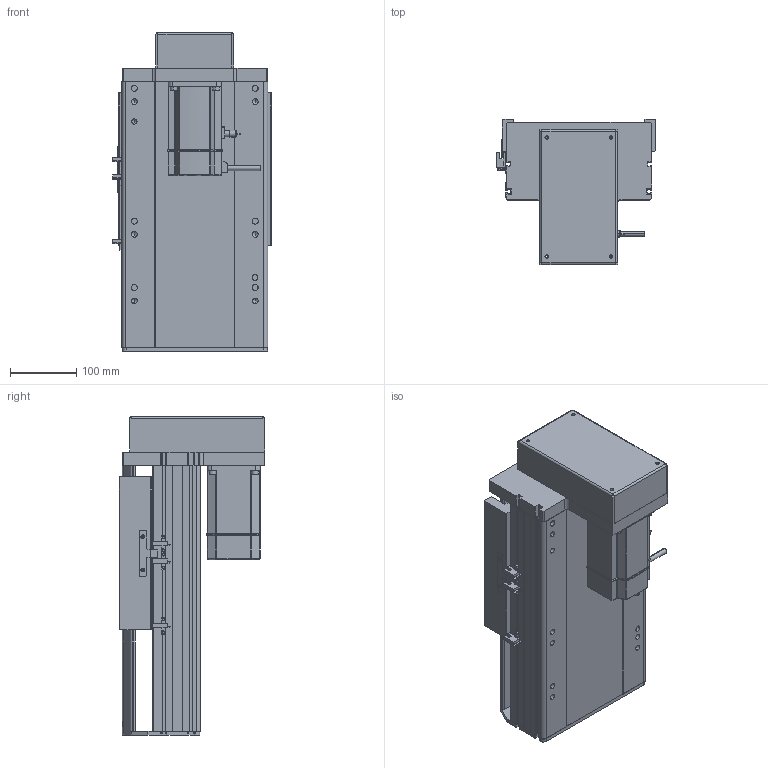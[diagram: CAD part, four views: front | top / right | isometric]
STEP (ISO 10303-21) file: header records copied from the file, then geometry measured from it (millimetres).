
FILE_DESCRIPTION (( 'STEP AP214' ), '1' );
FILE_NAME ('RTH22-XX-100-M-M75-C4.STEP', '2025-10-24T11:05:30', ( 'Microsoft' ), ( 'Microsoft' ), 'SwSTEP 2.0', 'SolidWorks 2018', '' );
FILE_SCHEMA (( 'AUTOMOTIVE_DESIGN' ));
Length unit declared in the file: millimetre
Products named in the file (10): N_RTH22-M-007奻裔^RTH22-XX-XX-M-M75-C4; N_RTH22-L-011菁釱^RTH22-XX-XX-M-M75-C4; N_750W萇儂^RTH22-XX-XX-M-M75-C4; N_OMRON EE-SX672 传感器^RTH22-XX-XX-M-M75-C4; RTH22-XX-100-M-M75-C4; N_RTH22-GY-001耜裔^RTH22-XX-XX-M-M75-C4; N_RTH22-L-004-SFS25賑釱^RTH22-XX-XX-M-M75-C4; N_RTH22-M-018裔赽^RTH22-XX-XX-M-M75-C4; N_RTH22-GY-013外置感应片^RTH22-XX-XX-M-M75-C4; N_RTH22-M-008-P75萇儂啣^RTH22-XX-XX-M-M75-C4
Assembly tree (11 placements, depth 2):
  RTH22-XX-100-M-M75-C4
    N_RTH22-L-011菁釱^RTH22-XX-XX-M-M75-C4
    N_RTH22-GY-001耜裔^RTH22-XX-XX-M-M75-C4
    N_750W萇儂^RTH22-XX-XX-M-M75-C4
    N_RTH22-M-008-P75萇儂啣^RTH22-XX-XX-M-M75-C4
    N_RTH22-M-007奻裔^RTH22-XX-XX-M-M75-C4
    N_RTH22-M-018裔赽^RTH22-XX-XX-M-M75-C4
    N_OMRON EE-SX672 传感器^RTH22-XX-XX-M-M75-C4  x3
    N_RTH22-GY-013外置感应片^RTH22-XX-XX-M-M75-C4
    N_RTH22-L-004-SFS25賑釱^RTH22-XX-XX-M-M75-C4
Bounding box: 238.5 x 218.5 x 479.7 mm (x, y, z)
Volume: 8323760.9 mm3; surface area: 1025346.6 mm2
Topology: 11 solids, 11 shells, 1551 faces, 4230 edges, 2735 vertices
Faces by surface type: plane 799, cylinder 427, bspline 279, cone 46
Entity records: 38367 total; most frequent: CARTESIAN_POINT 11772, ORIENTED_EDGE 5460, DIRECTION 5084, EDGE_CURVE 2730, VERTEX_POINT 1771, LINE 1734, VECTOR 1734, AXIS2_PLACEMENT_3D 1675
